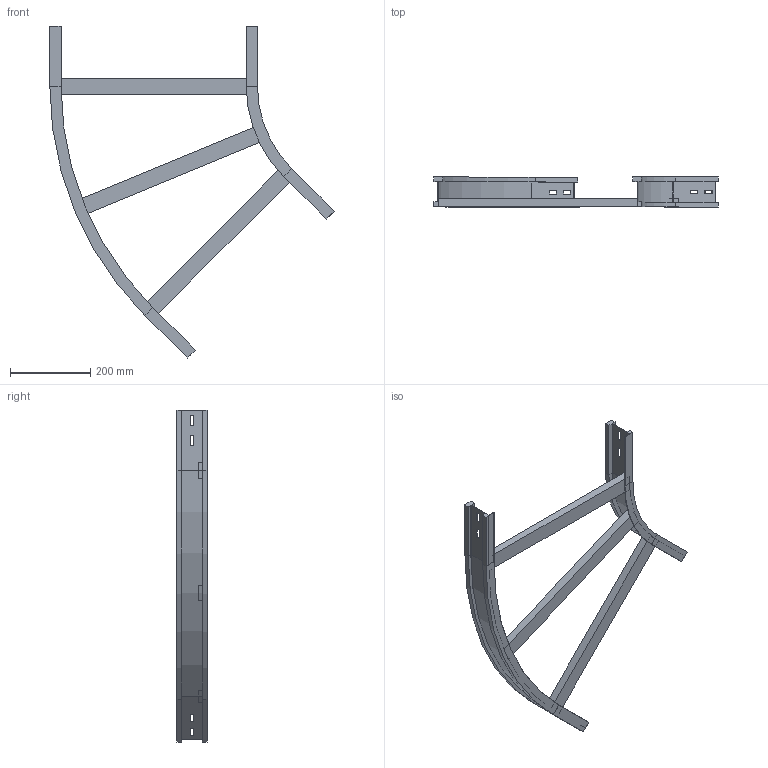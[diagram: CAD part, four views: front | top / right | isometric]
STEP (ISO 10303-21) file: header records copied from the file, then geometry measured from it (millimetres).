
FILE_DESCRIPTION (( 'STEP AP214' ), '1' );
FILE_NAME ('11S3C500.step', '2025-02-21T16:05:35', ( '' ), ( '' ), 'SwSTEP 2.0', 'SolidWorks 2023', '' );
FILE_SCHEMA (( 'AUTOMOTIVE_DESIGN' ));
Length unit declared in the file: millimetre
Products named in the file (4): LONGH.ESTERNO 45°_H75_R300+500; TRAVERSINO_500; LONGH.INTERNO 45°_H75_R300; 11S3C500
Assembly tree (5 placements, depth 2):
  11S3C500
    LONGH.INTERNO 45°_H75_R300
    LONGH.ESTERNO 45°_H75_R300+500
    TRAVERSINO_500  x3
Bounding box: 709.3 x 75 x 828.12 mm (x, y, z)
Volume: 1926365.4 mm3; surface area: 546050.7 mm2
Topology: 5 solids, 5 shells, 126 faces, 300 edges, 184 vertices
Faces by surface type: plane 114, cylinder 12
Entity records: 3389 total; most frequent: CARTESIAN_POINT 566, ORIENTED_EDGE 552, DIRECTION 544, EDGE_CURVE 276, VECTOR 252, LINE 252, VERTEX_POINT 168, AXIS2_PLACEMENT_3D 146
